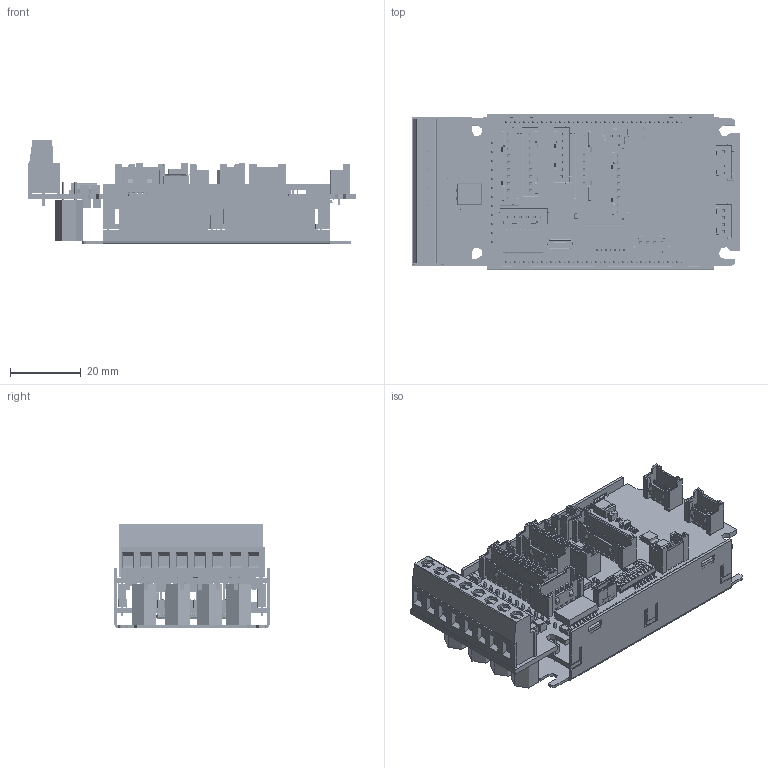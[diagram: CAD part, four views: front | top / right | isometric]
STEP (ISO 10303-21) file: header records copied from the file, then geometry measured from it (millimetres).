
FILE_DESCRIPTION (( 'STEP AP214' ), '1' );
FILE_NAME ('iPOS4810 XZ-CAN.STEP', '2025-01-16T08:29:13', ( '' ), ( '' ), 'SwSTEP 2.0', 'SolidWorks 2017', '' );
FILE_SCHEMA (( 'AUTOMOTIVE_DESIGN' ));
Length unit declared in the file: millimetre
Products named in the file (1): iPOS4810 XZ-CAN
Bounding box: 92.8 x 43.8 x 29.46 mm (x, y, z)
Topology: 0 solids, 718 shells, 18475 faces, 47639 edges, 31165 vertices
Faces by surface type: plane 14810, cylinder 2726, bspline 838, torus 53, sphere 48
Entity records: 632467 total; most frequent: CARTESIAN_POINT 146523, ORIENTED_EDGE 94836, DIRECTION 85273, EDGE_CURVE 47594, VECTOR 39951, LINE 39951, VERTEX_POINT 31165, AXIS2_PLACEMENT_3D 22661
